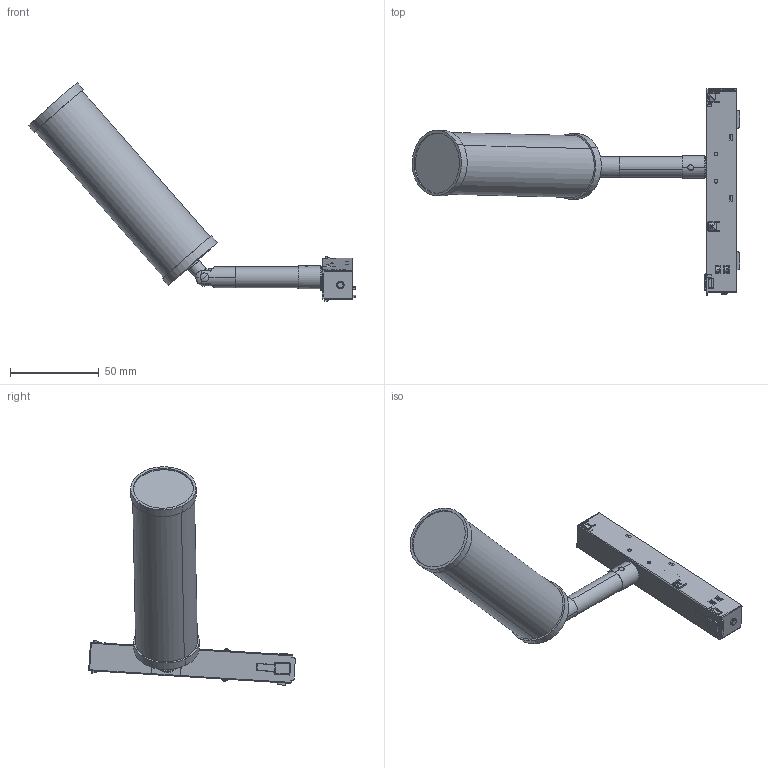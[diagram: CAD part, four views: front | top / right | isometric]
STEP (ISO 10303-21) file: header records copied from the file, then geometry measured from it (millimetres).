
FILE_DESCRIPTION (( 'STEP AP214' ), '1' );
FILE_NAME ('DOOD_solo estructura.STEP', '2026-02-09T09:15:52', ( '' ), ( '' ), 'SwSTEP 2.0', 'SolidWorks 2023', '' );
FILE_SCHEMA (( 'AUTOMOTIVE_DESIGN' ));
Length unit declared in the file: millimetre
Products named in the file (1): DOOD_solo estructura
Bounding box: 185.02 x 116.69 x 123.4 mm (x, y, z)
Surface area: 51548.9 mm2 (no closed solid volume)
Topology: 0 solids, 35 shells, 1606 faces, 4465 edges, 2913 vertices
Faces by surface type: plane 1228, cylinder 247, bspline 77, cone 42, torus 10, sphere 2
Entity records: 56416 total; most frequent: CARTESIAN_POINT 17830, ORIENTED_EDGE 8876, DIRECTION 6455, EDGE_CURVE 4444, VERTEX_POINT 2911, LINE 2611, VECTOR 2611, AXIS2_PLACEMENT_3D 1922
